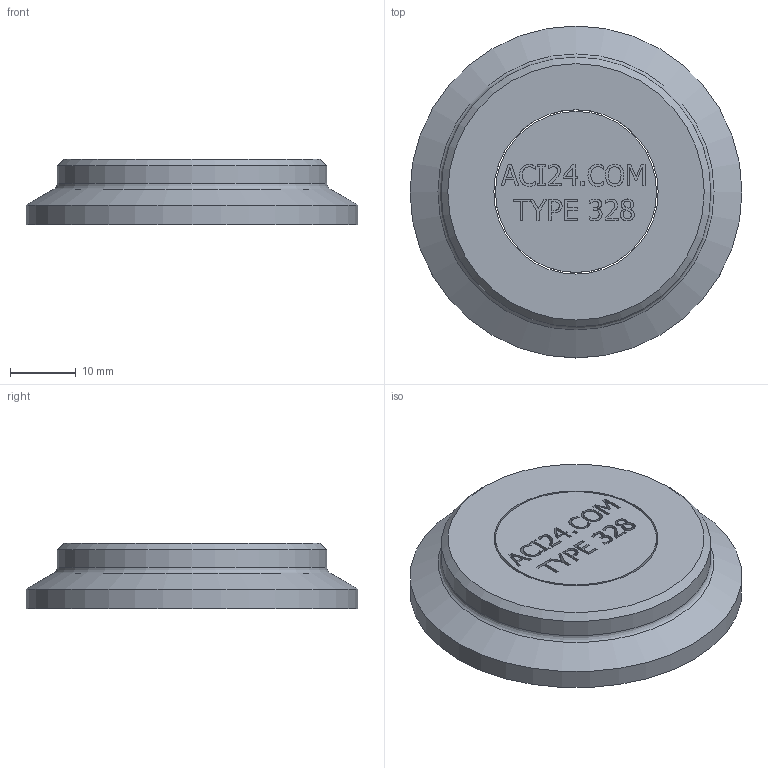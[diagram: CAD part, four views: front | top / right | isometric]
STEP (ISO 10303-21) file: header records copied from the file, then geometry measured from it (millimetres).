
FILE_DESCRIPTION(/* description */ ('ACI Typ 328 DN 25 / 32 / 40 PN 16'),/* implementation_level */ '2;1');
FILE_NAME(/* name */ 'C:\Users\willms\Desktop\ACI-328-25-40-16.stp',/* time_stamp */ '2020-09-01T16:08:06+02:00',/* author */ ('götz'),/* organization */ ('ACI Industriearmaturen GmbH info@aci24.com www.aci24.com'),/* preprocessor_version */ 'ST-DEVELOPER v16.1',/* originating_system */ 'Autodesk Inventor 2016',/* authorisation */ 'ACI Industriearmaturen GmbH info@aci24.com www.aci24.com');
FILE_SCHEMA (('CONFIG_CONTROL_DESIGN'));
Length unit declared in the file: centimetre
Products named in the file (1): ACI-328-25-40-16
Bounding box: 50.5 x 50.5 x 10 mm (x, y, z)
Volume: 15534 mm3; surface area: 7124.4 mm2
Topology: 2 solids, 2 shells, 270 faces, 725 edges, 482 vertices
Faces by surface type: plane 147, bspline 114, cylinder 4, cone 4, torus 1
Full cylindrical faces by diameter (mm): 24.5 x1, 25 x1, 41 x1, 50.5 x1
Entity records: 8972 total; most frequent: CARTESIAN_POINT 2951, ORIENTED_EDGE 1432, DIRECTION 816, EDGE_CURVE 716, VERTEX_POINT 482, LINE 474, VECTOR 474, EDGE_LOOP 304
